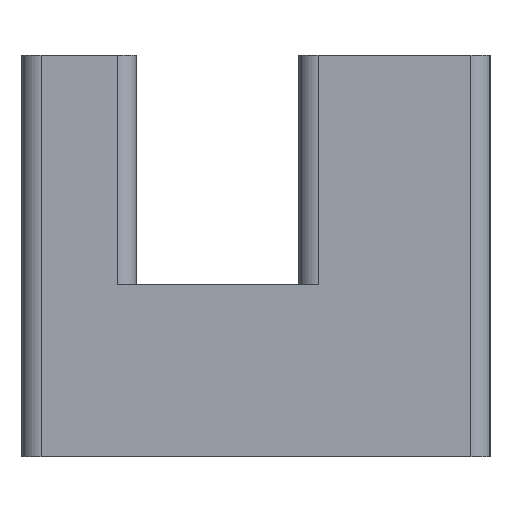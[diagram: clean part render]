
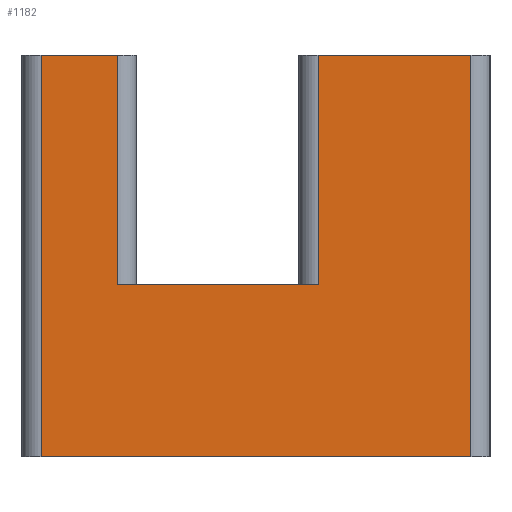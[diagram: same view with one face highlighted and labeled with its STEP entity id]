
A CAD part, left-side view. The second image highlights one B-rep face of the part: STEP entity #1182.
In plain terms, the highlighted planar face has unit normal (-1, 0, 0).
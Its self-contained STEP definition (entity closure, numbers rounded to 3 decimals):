
#586=CARTESIAN_POINT('',(0.,13.5,20.));
#587=VERTEX_POINT('',#586);
#595=CARTESIAN_POINT('',(0.,9.5,20.));
#596=VERTEX_POINT('',#595);
#597=CARTESIAN_POINT('',(0.,13.5,20.));
#598=DIRECTION('',(0.,-1.,0.));
#599=VECTOR('',#598,4.);
#600=LINE('',#597,#599);
#601=EDGE_CURVE('',#587,#596,#600,.T.);
#785=CARTESIAN_POINT('',(0.,-9.,-1.));
#786=VERTEX_POINT('',#785);
#794=CARTESIAN_POINT('',(0.,13.5,-1.));
#795=VERTEX_POINT('',#794);
#796=CARTESIAN_POINT('',(0.,13.5,-1.));
#797=DIRECTION('',(0.,-1.,0.));
#798=VECTOR('',#797,22.5);
#799=LINE('',#796,#798);
#800=EDGE_CURVE('',#795,#786,#799,.T.);
#966=CARTESIAN_POINT('',(0.,9.5,8.));
#967=VERTEX_POINT('',#966);
#975=CARTESIAN_POINT('',(0.,-1.,8.));
#976=VERTEX_POINT('',#975);
#977=CARTESIAN_POINT('',(0.,9.5,8.));
#978=DIRECTION('',(-0.,-1.,-0.));
#979=VECTOR('',#978,10.5);
#980=LINE('',#977,#979);
#981=EDGE_CURVE('',#967,#976,#980,.T.);
#1138=CARTESIAN_POINT('',(0.,0.,8.));
#1139=DIRECTION('',(1.,0.,0.));
#1140=DIRECTION('',(0.,0.,-1.));
#1141=AXIS2_PLACEMENT_3D('',#1138,#1139,#1140);
#1142=PLANE('',#1141);
#1143=ORIENTED_EDGE('',*,*,#800,.T.);
#1144=CARTESIAN_POINT('',(0.,-9.,20.));
#1145=VERTEX_POINT('',#1144);
#1146=CARTESIAN_POINT('',(0.,-9.,-1.));
#1147=DIRECTION('',(0.,0.,1.));
#1148=VECTOR('',#1147,21.);
#1149=LINE('',#1146,#1148);
#1150=EDGE_CURVE('',#786,#1145,#1149,.T.);
#1151=ORIENTED_EDGE('',*,*,#1150,.T.);
#1152=CARTESIAN_POINT('',(0.,-1.,20.));
#1153=VERTEX_POINT('',#1152);
#1154=CARTESIAN_POINT('',(0.,-1.,20.));
#1155=DIRECTION('',(0.,-1.,0.));
#1156=VECTOR('',#1155,8.);
#1157=LINE('',#1154,#1156);
#1158=EDGE_CURVE('',#1153,#1145,#1157,.T.);
#1159=ORIENTED_EDGE('',*,*,#1158,.F.);
#1160=CARTESIAN_POINT('',(0.,-1.,20.));
#1161=DIRECTION('',(-0.,-0.,-1.));
#1162=VECTOR('',#1161,12.);
#1163=LINE('',#1160,#1162);
#1164=EDGE_CURVE('',#1153,#976,#1163,.T.);
#1165=ORIENTED_EDGE('',*,*,#1164,.T.);
#1166=ORIENTED_EDGE('',*,*,#981,.F.);
#1167=CARTESIAN_POINT('',(0.,9.5,8.));
#1168=DIRECTION('',(0.,0.,1.));
#1169=VECTOR('',#1168,12.);
#1170=LINE('',#1167,#1169);
#1171=EDGE_CURVE('',#967,#596,#1170,.T.);
#1172=ORIENTED_EDGE('',*,*,#1171,.T.);
#1173=ORIENTED_EDGE('',*,*,#601,.F.);
#1174=CARTESIAN_POINT('',(0.,13.5,20.));
#1175=DIRECTION('',(-0.,-0.,-1.));
#1176=VECTOR('',#1175,21.);
#1177=LINE('',#1174,#1176);
#1178=EDGE_CURVE('',#587,#795,#1177,.T.);
#1179=ORIENTED_EDGE('',*,*,#1178,.T.);
#1180=EDGE_LOOP('',(#1143,#1151,#1159,#1165,#1166,#1172,#1173,#1179));
#1181=FACE_BOUND('',#1180,.T.);
#1182=ADVANCED_FACE('',(#1181),#1142,.F.);
